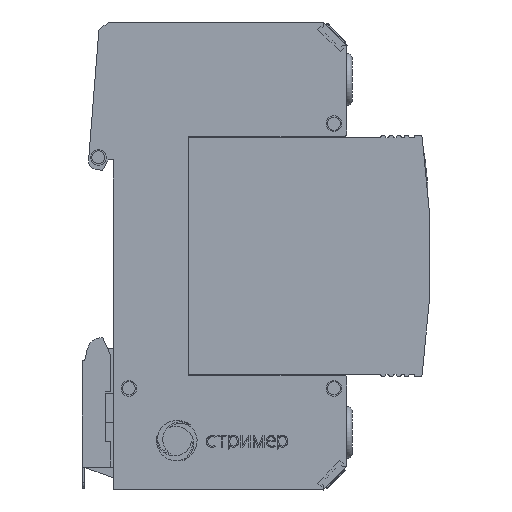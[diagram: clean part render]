
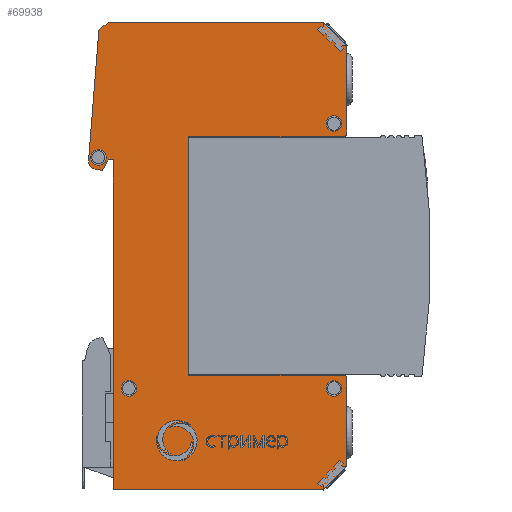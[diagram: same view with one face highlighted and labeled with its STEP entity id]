
A CAD part, front view. The second image highlights one B-rep face of the part: STEP entity #69938.
In plain terms, the highlighted planar face has unit normal (0, -1, 0).
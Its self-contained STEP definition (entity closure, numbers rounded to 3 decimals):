
#68196=CARTESIAN_POINT('',(-14.5,-9.,-45.));
#68197=VERTEX_POINT('',#68196);
#68198=CARTESIAN_POINT('',(26.,-9.,-45.));
#68199=VERTEX_POINT('',#68198);
#68200=CARTESIAN_POINT('',(-14.5,-9.,-45.));
#68201=DIRECTION('',(1.,-0.,-0.));
#68202=VECTOR('',#68201,40.5);
#68203=LINE('',#68200,#68202);
#68204=EDGE_CURVE('',#68197,#68199,#68203,.T.);
#68836=CARTESIAN_POINT('',(-14.5,-9.,18.5));
#68837=VERTEX_POINT('',#68836);
#68838=CARTESIAN_POINT('',(-14.5,-9.,18.5));
#68839=DIRECTION('',(-0.,-0.,-1.));
#68840=VECTOR('',#68839,63.5);
#68841=LINE('',#68838,#68840);
#68842=EDGE_CURVE('',#68837,#68197,#68841,.T.);
#69041=CARTESIAN_POINT('',(-15.5,-9.,45.));
#69042=VERTEX_POINT('',#69041);
#69043=CARTESIAN_POINT('',(-17.29,-9.,43.498));
#69044=VERTEX_POINT('',#69043);
#69045=CARTESIAN_POINT('',(-15.5,-9.,45.));
#69046=DIRECTION('',(-0.766,-0.,-0.643));
#69047=VECTOR('',#69046,2.337);
#69048=LINE('',#69045,#69047);
#69049=EDGE_CURVE('',#69042,#69044,#69048,.T.);
#69081=CARTESIAN_POINT('',(-19.273,-9.,18.306));
#69082=VERTEX_POINT('',#69081);
#69083=CARTESIAN_POINT('',(-17.29,-9.,43.498));
#69084=DIRECTION('',(-0.078,-0.,-0.997));
#69085=VECTOR('',#69084,25.27);
#69086=LINE('',#69083,#69085);
#69087=EDGE_CURVE('',#69044,#69082,#69086,.T.);
#69112=CARTESIAN_POINT('',(-17.999,-9.,16.704));
#69113=VERTEX_POINT('',#69112);
#69114=CARTESIAN_POINT('',(-17.777,-9.,18.188));
#69115=DIRECTION('',(0.,-1.,0.));
#69116=DIRECTION('',(0.,0.,-1.));
#69117=AXIS2_PLACEMENT_3D('',#69114,#69115,#69116);
#69118=CIRCLE('',#69117,1.5);
#69119=EDGE_CURVE('',#69082,#69113,#69118,.T.);
#69145=CARTESIAN_POINT('',(-16.632,-9.,16.5));
#69146=VERTEX_POINT('',#69145);
#69147=CARTESIAN_POINT('',(-17.999,-9.,16.704));
#69148=DIRECTION('',(0.989,-0.,-0.148));
#69149=VECTOR('',#69148,1.383);
#69150=LINE('',#69147,#69149);
#69151=EDGE_CURVE('',#69113,#69146,#69150,.T.);
#69176=CARTESIAN_POINT('',(-15.5,-9.,18.5));
#69177=VERTEX_POINT('',#69176);
#69178=CARTESIAN_POINT('',(-16.632,-9.,16.5));
#69179=DIRECTION('',(0.492,-0.,0.87));
#69180=VECTOR('',#69179,2.298);
#69181=LINE('',#69178,#69180);
#69182=EDGE_CURVE('',#69146,#69177,#69181,.T.);
#69207=CARTESIAN_POINT('',(-15.5,-9.,18.5));
#69208=DIRECTION('',(1.,-0.,-0.));
#69209=VECTOR('',#69208,1.);
#69210=LINE('',#69207,#69209);
#69211=EDGE_CURVE('',#69177,#68837,#69210,.T.);
#69229=CARTESIAN_POINT('',(30.5,-9.,-40.5));
#69230=VERTEX_POINT('',#69229);
#69231=CARTESIAN_POINT('',(26.,-9.,-45.));
#69232=DIRECTION('',(0.707,-0.,0.707));
#69233=VECTOR('',#69232,6.364);
#69234=LINE('',#69231,#69233);
#69235=EDGE_CURVE('',#68199,#69230,#69234,.T.);
#69280=CARTESIAN_POINT('',(30.5,-9.,-23.5));
#69281=VERTEX_POINT('',#69280);
#69282=CARTESIAN_POINT('',(30.5,-9.,-40.5));
#69283=DIRECTION('',(-0.,-0.,1.));
#69284=VECTOR('',#69283,17.);
#69285=LINE('',#69282,#69284);
#69286=EDGE_CURVE('',#69230,#69281,#69285,.T.);
#69311=CARTESIAN_POINT('',(30.,-9.,-23.));
#69312=VERTEX_POINT('',#69311);
#69313=CARTESIAN_POINT('',(30.,-9.,-23.5));
#69314=DIRECTION('',(0.,-1.,0.));
#69315=DIRECTION('',(0.,0.,-1.));
#69316=AXIS2_PLACEMENT_3D('',#69313,#69314,#69315);
#69317=CIRCLE('',#69316,0.5);
#69318=EDGE_CURVE('',#69281,#69312,#69317,.T.);
#69344=CARTESIAN_POINT('',(0.,-9.,-23.));
#69345=VERTEX_POINT('',#69344);
#69346=CARTESIAN_POINT('',(30.,-9.,-23.));
#69347=DIRECTION('',(-1.,-0.,0.));
#69348=VECTOR('',#69347,30.);
#69349=LINE('',#69346,#69348);
#69350=EDGE_CURVE('',#69312,#69345,#69349,.T.);
#69375=CARTESIAN_POINT('',(0.,-9.,23.));
#69376=VERTEX_POINT('',#69375);
#69377=CARTESIAN_POINT('',(0.,-9.,-23.));
#69378=DIRECTION('',(-0.,-0.,1.));
#69379=VECTOR('',#69378,46.);
#69380=LINE('',#69377,#69379);
#69381=EDGE_CURVE('',#69345,#69376,#69380,.T.);
#69406=CARTESIAN_POINT('',(30.,-9.,23.));
#69407=VERTEX_POINT('',#69406);
#69408=CARTESIAN_POINT('',(0.,-9.,23.));
#69409=DIRECTION('',(1.,-0.,-0.));
#69410=VECTOR('',#69409,30.);
#69411=LINE('',#69408,#69410);
#69412=EDGE_CURVE('',#69376,#69407,#69411,.T.);
#69437=CARTESIAN_POINT('',(30.5,-9.,23.5));
#69438=VERTEX_POINT('',#69437);
#69439=CARTESIAN_POINT('',(30.,-9.,23.5));
#69440=DIRECTION('',(0.,-1.,0.));
#69441=DIRECTION('',(0.,0.,-1.));
#69442=AXIS2_PLACEMENT_3D('',#69439,#69440,#69441);
#69443=CIRCLE('',#69442,0.5);
#69444=EDGE_CURVE('',#69407,#69438,#69443,.T.);
#69490=CARTESIAN_POINT('',(30.5,-9.,40.5));
#69491=VERTEX_POINT('',#69490);
#69492=CARTESIAN_POINT('',(30.5,-9.,23.5));
#69493=DIRECTION('',(-0.,-0.,1.));
#69494=VECTOR('',#69493,17.);
#69495=LINE('',#69492,#69494);
#69496=EDGE_CURVE('',#69438,#69491,#69495,.T.);
#69521=CARTESIAN_POINT('',(26.,-9.,45.));
#69522=VERTEX_POINT('',#69521);
#69523=CARTESIAN_POINT('',(30.5,-9.,40.5));
#69524=DIRECTION('',(-0.707,-0.,0.707));
#69525=VECTOR('',#69524,6.364);
#69526=LINE('',#69523,#69525);
#69527=EDGE_CURVE('',#69491,#69522,#69526,.T.);
#69572=CARTESIAN_POINT('',(-18.88,-9.,19.));
#69573=VERTEX_POINT('',#69572);
#69574=CARTESIAN_POINT('',(-17.38,-9.,17.5));
#69575=VERTEX_POINT('',#69574);
#69576=CARTESIAN_POINT('',(-17.38,-9.,19.));
#69577=DIRECTION('',(0.,-1.,0.));
#69578=DIRECTION('',(0.,0.,-1.));
#69579=AXIS2_PLACEMENT_3D('',#69576,#69577,#69578);
#69580=CIRCLE('',#69579,1.5);
#69581=EDGE_CURVE('',#69573,#69575,#69580,.T.);
#69583=CARTESIAN_POINT('',(-17.38,-9.,19.));
#69584=DIRECTION('',(0.,-1.,0.));
#69585=DIRECTION('',(0.,0.,-1.));
#69586=AXIS2_PLACEMENT_3D('',#69583,#69584,#69585);
#69587=CIRCLE('',#69586,1.5);
#69588=EDGE_CURVE('',#69575,#69573,#69587,.T.);
#69618=CARTESIAN_POINT('',(26.5,-9.,25.5));
#69619=VERTEX_POINT('',#69618);
#69620=CARTESIAN_POINT('',(28.,-9.,24.));
#69621=VERTEX_POINT('',#69620);
#69622=CARTESIAN_POINT('',(28.,-9.,25.5));
#69623=DIRECTION('',(0.,-1.,0.));
#69624=DIRECTION('',(0.,0.,-1.));
#69625=AXIS2_PLACEMENT_3D('',#69622,#69623,#69624);
#69626=CIRCLE('',#69625,1.5);
#69627=EDGE_CURVE('',#69619,#69621,#69626,.T.);
#69629=CARTESIAN_POINT('',(28.,-9.,25.5));
#69630=DIRECTION('',(0.,-1.,0.));
#69631=DIRECTION('',(0.,0.,-1.));
#69632=AXIS2_PLACEMENT_3D('',#69629,#69630,#69631);
#69633=CIRCLE('',#69632,1.5);
#69634=EDGE_CURVE('',#69621,#69619,#69633,.T.);
#69664=CARTESIAN_POINT('',(-13.,-9.,-25.5));
#69665=VERTEX_POINT('',#69664);
#69666=CARTESIAN_POINT('',(-11.5,-9.,-27.));
#69667=VERTEX_POINT('',#69666);
#69668=CARTESIAN_POINT('',(-11.5,-9.,-25.5));
#69669=DIRECTION('',(0.,-1.,0.));
#69670=DIRECTION('',(0.,0.,-1.));
#69671=AXIS2_PLACEMENT_3D('',#69668,#69669,#69670);
#69672=CIRCLE('',#69671,1.5);
#69673=EDGE_CURVE('',#69665,#69667,#69672,.T.);
#69675=CARTESIAN_POINT('',(-11.5,-9.,-25.5));
#69676=DIRECTION('',(0.,-1.,0.));
#69677=DIRECTION('',(0.,0.,-1.));
#69678=AXIS2_PLACEMENT_3D('',#69675,#69676,#69677);
#69679=CIRCLE('',#69678,1.5);
#69680=EDGE_CURVE('',#69667,#69665,#69679,.T.);
#69710=CARTESIAN_POINT('',(26.5,-9.,-25.5));
#69711=VERTEX_POINT('',#69710);
#69712=CARTESIAN_POINT('',(28.,-9.,-27.));
#69713=VERTEX_POINT('',#69712);
#69714=CARTESIAN_POINT('',(28.,-9.,-25.5));
#69715=DIRECTION('',(0.,-1.,0.));
#69716=DIRECTION('',(0.,0.,-1.));
#69717=AXIS2_PLACEMENT_3D('',#69714,#69715,#69716);
#69718=CIRCLE('',#69717,1.5);
#69719=EDGE_CURVE('',#69711,#69713,#69718,.T.);
#69721=CARTESIAN_POINT('',(28.,-9.,-25.5));
#69722=DIRECTION('',(0.,-1.,0.));
#69723=DIRECTION('',(0.,0.,-1.));
#69724=AXIS2_PLACEMENT_3D('',#69721,#69722,#69723);
#69725=CIRCLE('',#69724,1.5);
#69726=EDGE_CURVE('',#69713,#69711,#69725,.T.);
#69838=CARTESIAN_POINT('',(26.,-9.,45.));
#69839=DIRECTION('',(-1.,-0.,0.));
#69840=VECTOR('',#69839,41.5);
#69841=LINE('',#69838,#69840);
#69842=EDGE_CURVE('',#69522,#69042,#69841,.T.);
#69897=CARTESIAN_POINT('',(0.,-9.,0.));
#69898=DIRECTION('',(0.,-1.,0.));
#69899=DIRECTION('',(0.,0.,1.));
#69900=AXIS2_PLACEMENT_3D('',#69897,#69898,#69899);
#69901=PLANE('',#69900);
#69902=ORIENTED_EDGE('',*,*,#69726,.F.);
#69903=ORIENTED_EDGE('',*,*,#69719,.F.);
#69904=EDGE_LOOP('',(#69902,#69903));
#69905=FACE_BOUND('',#69904,.T.);
#69906=ORIENTED_EDGE('',*,*,#69680,.F.);
#69907=ORIENTED_EDGE('',*,*,#69673,.F.);
#69908=EDGE_LOOP('',(#69906,#69907));
#69909=FACE_BOUND('',#69908,.T.);
#69910=ORIENTED_EDGE('',*,*,#69634,.F.);
#69911=ORIENTED_EDGE('',*,*,#69627,.F.);
#69912=EDGE_LOOP('',(#69910,#69911));
#69913=FACE_BOUND('',#69912,.T.);
#69914=ORIENTED_EDGE('',*,*,#69588,.F.);
#69915=ORIENTED_EDGE('',*,*,#69581,.F.);
#69916=EDGE_LOOP('',(#69914,#69915));
#69917=FACE_BOUND('',#69916,.T.);
#69918=ORIENTED_EDGE('',*,*,#69049,.T.);
#69919=ORIENTED_EDGE('',*,*,#69087,.T.);
#69920=ORIENTED_EDGE('',*,*,#69119,.T.);
#69921=ORIENTED_EDGE('',*,*,#69151,.T.);
#69922=ORIENTED_EDGE('',*,*,#69182,.T.);
#69923=ORIENTED_EDGE('',*,*,#69211,.T.);
#69924=ORIENTED_EDGE('',*,*,#68842,.T.);
#69925=ORIENTED_EDGE('',*,*,#68204,.T.);
#69926=ORIENTED_EDGE('',*,*,#69235,.T.);
#69927=ORIENTED_EDGE('',*,*,#69286,.T.);
#69928=ORIENTED_EDGE('',*,*,#69318,.T.);
#69929=ORIENTED_EDGE('',*,*,#69350,.T.);
#69930=ORIENTED_EDGE('',*,*,#69381,.T.);
#69931=ORIENTED_EDGE('',*,*,#69412,.T.);
#69932=ORIENTED_EDGE('',*,*,#69444,.T.);
#69933=ORIENTED_EDGE('',*,*,#69496,.T.);
#69934=ORIENTED_EDGE('',*,*,#69527,.T.);
#69935=ORIENTED_EDGE('',*,*,#69842,.T.);
#69936=EDGE_LOOP('',(#69918,#69919,#69920,#69921,#69922,#69923,#69924,#69925,#69926,#69927,#69928,#69929,#69930,#69931,#69932,#69933,#69934,#69935));
#69937=FACE_BOUND('',#69936,.T.);
#69938=ADVANCED_FACE('',(#69905,#69909,#69913,#69917,#69937),#69901,.T.);
